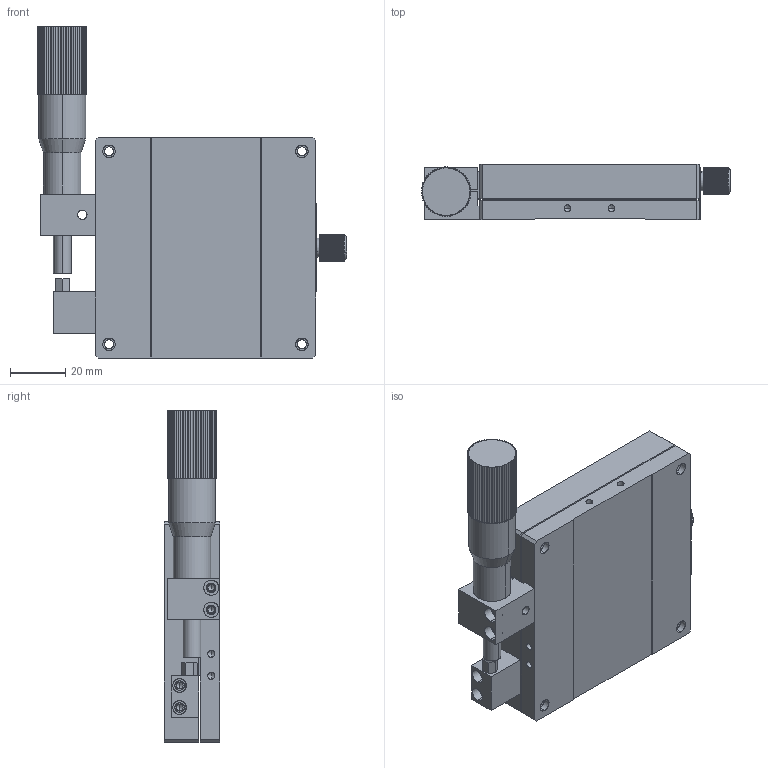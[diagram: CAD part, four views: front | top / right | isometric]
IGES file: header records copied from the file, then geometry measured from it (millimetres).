
Start section: SolidWorks IGES file using analytic representation for surfaces
Bounding box: 112.19 x 20 x 120.5 mm (x, y, z)
Surface area: 45860.3 mm2 (no closed solid volume)
Topology: 0 solids, 0 shells, 655 faces, 8008 edges, 7979 vertices
Faces by surface type: revolution 451, bspline 204
